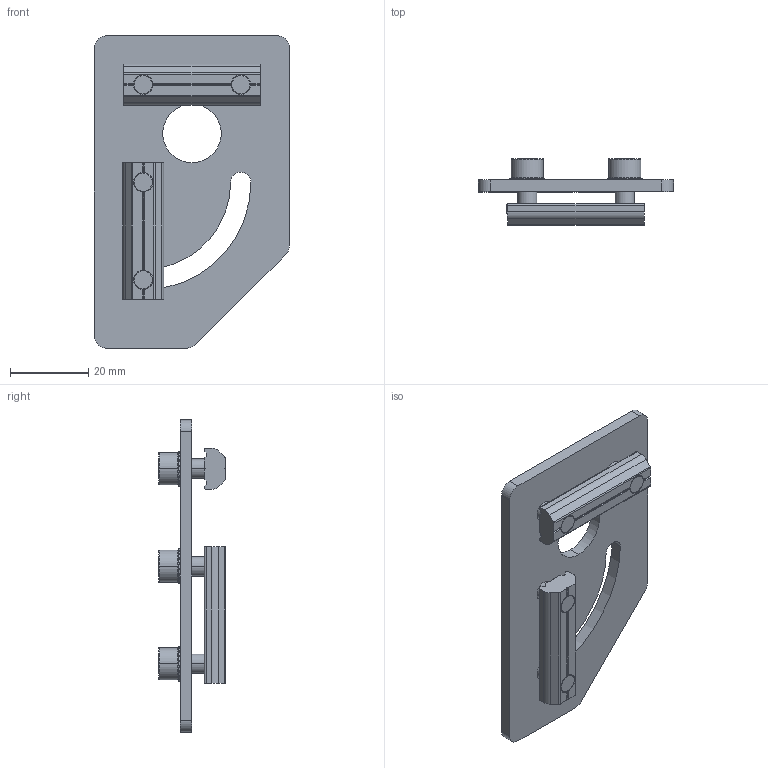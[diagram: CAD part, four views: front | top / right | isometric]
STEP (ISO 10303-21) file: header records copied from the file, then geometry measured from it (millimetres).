
FILE_DESCRIPTION (( 'STEP AP214' ), '1' );
FILE_NAME ('SFP-A50.STEP', '2019-10-31T01:05:54', ( '微软用户' ), ( '微软中国' ), 'SwSTEP 2.0', 'SolidWorks 2016', '' );
FILE_SCHEMA (( 'AUTOMOTIVE_DESIGN' ));
Length unit declared in the file: millimetre
Products named in the file (5): SFP-A50; PTN-M5P25; PTS-M5; PTC-M5L12
Assembly tree (11 placements, depth 2):
  SFP-A50
    SFP-A50
    PTC-M5L12  x4
    PTS-M5  x4
    PTN-M5P25  x2
Bounding box: 50 x 17 x 80 mm (x, y, z)
Volume: 14528.2 mm3; surface area: 12582.8 mm2
Topology: 11 solids, 11 shells, 860 faces, 2514 edges, 1668 vertices
Faces by surface type: plane 743, cylinder 93, cone 24
Entity records: 9022 total; most frequent: CARTESIAN_POINT 1722, DIRECTION 1520, ORIENTED_EDGE 1512, EDGE_CURVE 756, AXIS2_PLACEMENT_3D 524, VERTEX_POINT 502, VECTOR 472, LINE 472
